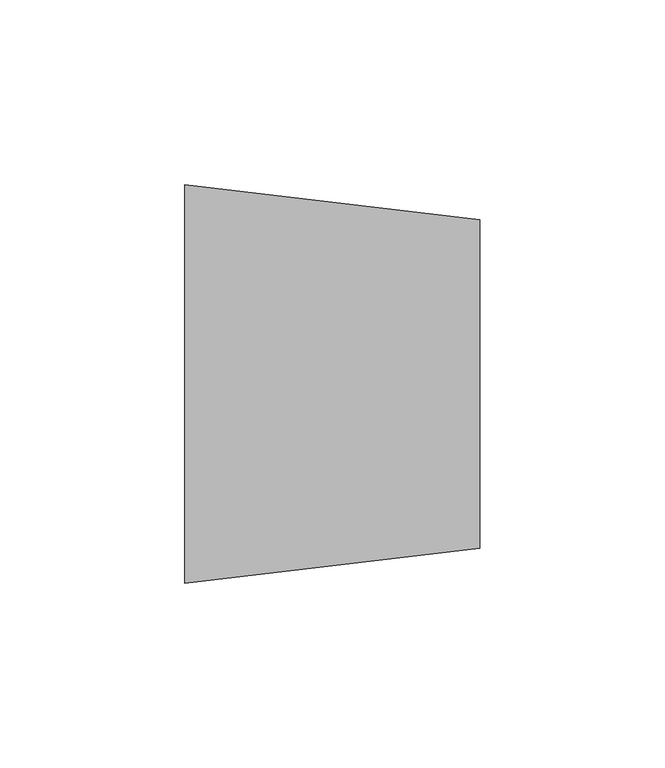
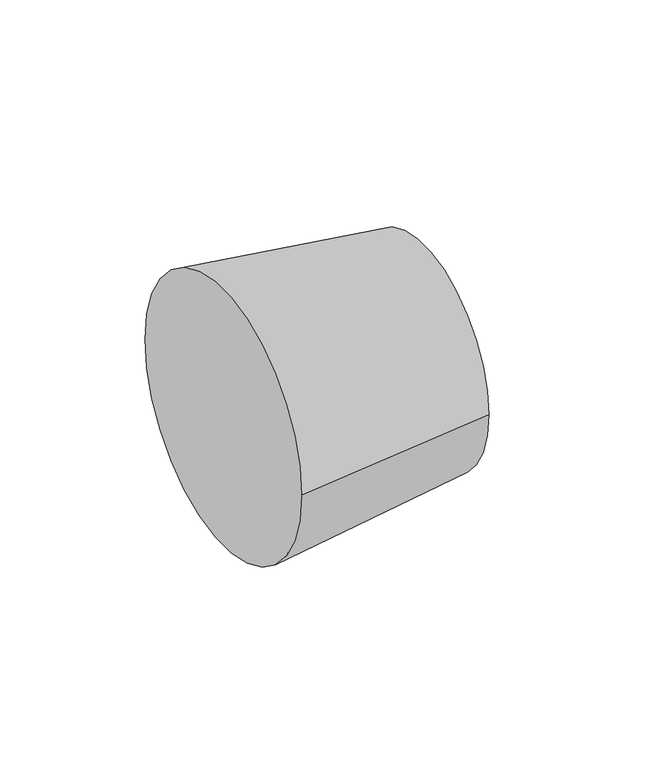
"""IFC4 building model written with IfcOpenShell, lengths in millimetres: pipe fitting geometry, ADSK_ДетальСтальнаяСварная_Переход_ГОСТ17378-2001 : Исполнение 2."""

from ifc_helpers import new_model, si_unit, frame, origin, place, context, project, spatial, polyline, circle_curve, source, transform, mapped, element, save
from ifc_brep_helpers import plane_surface, revolved_surface, advanced_brep


def pipe_fitting_8699f2e5(model_context):
    return source(origin(), model_context, "Body", "AdvancedBrep", [
        advanced_brep(
        [(80.0, -44.5, 0.0), (80.0, 44.5, 0.0), (0.0, -54.0, 0.0), (0.0, 54.0, 0.0)],
        [
            (0, 1, circle_curve(frame((80.0, 0.0, 0.0), z_axis=(1.0, 0.0, 0.0), x_axis=(0.0, -1.0, 0.0)), 44.5)),
            (1, 0, circle_curve(frame((80.0, 0.0, 0.0), z_axis=(1.0, 0.0, 0.0), x_axis=(0.0, 1.0, 0.0)), 44.5)),
            (2, 3, circle_curve(frame((0.0, 0.0, 0.0), z_axis=(-1.0, 0.0, 0.0), x_axis=(0.0, 1.0, 0.0)), 54.0)),
            (3, 2, circle_curve(frame((0.0, 0.0, 0.0), z_axis=(-1.0, 0.0, 0.0), x_axis=(0.0, -1.0, 0.0)), 54.0)),
            (3, 1),
            (0, 2),
        ],
        [
            plane_surface(frame((80.0, 0.0, 0.0), z_axis=(1.0, 0.0, 0.0), x_axis=(0.0, 0.0, -1.0))),
            plane_surface(frame((0.0, 0.0, 0.0), z_axis=(-1.0, 0.0, 0.0), x_axis=(0.0, 0.0, -1.0))),
            revolved_surface(polyline([(80.0, -44.49999999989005, 0.0), (0.0, -54.0, 0.0)]), (454.7368421, 0.0, 0.0), (-1.0, 0.0, 0.0)),
            revolved_surface(polyline([(80.0, 44.49999999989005, 0.0), (0.0, 54.0, 0.0)]), (454.7368421, 0.0, 0.0), (-1.0, 0.0, 0.0)),
        ],
        [
            (0, [[1, 2]]),
            (1, [[3, 4]]),
            (2, [[-4, 5, -1, 6]]),
            (3, [[-3, -6, -2, -5]]),
        ],
    ),
    ])


if __name__ == "__main__":
    model = new_model("IFC4")
    model_context = context("Model", 3, world=origin())
    ifc_project = project(units=[si_unit("LENGTHUNIT", "METRE", prefix="MILLI")], contexts=[model_context])
    site = spatial("IfcSite", under=ifc_project)
    building = spatial("IfcBuilding", under=site)
    placement = place(None, origin())
    pipe_fitting_shape = pipe_fitting_8699f2e5(model_context)
    element("IfcPipeFitting", 1, ObjectType="ADSK_ДетальСтальнаяСварная_Переход_ГОСТ17378-2001 : Исполнение 2", at=placement, inside=building, context=model_context, shape_type="MappedRepresentation", body=[
        mapped(pipe_fitting_shape, transform((0.0, 0.0, 0.0), x_axis=(1.0, 0.0, 0.0), y_axis=(0.0, 1.0, 0.0), z_axis=(0.0, 0.0, 1.0))),
    ])
    save(model, "model.ifc")
